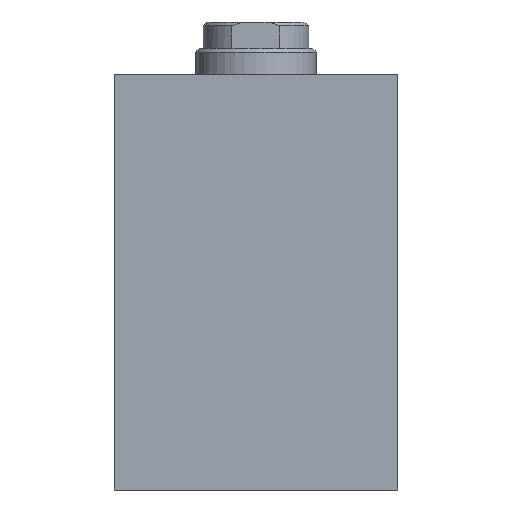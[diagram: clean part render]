
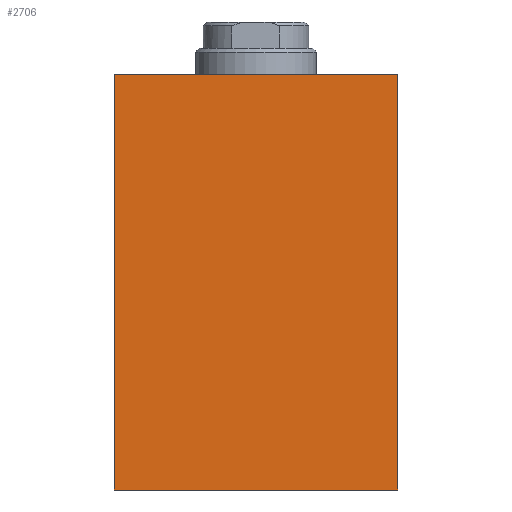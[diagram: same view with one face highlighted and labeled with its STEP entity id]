
A CAD part, front view. The second image highlights one B-rep face of the part: STEP entity #2706.
In plain terms, the highlighted planar face has unit normal (0, -1, 0).
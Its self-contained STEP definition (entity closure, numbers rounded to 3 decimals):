
#2706 = ADVANCED_FACE ( 'NONE', ( #16103 ), #11668, .F. ) ;
#3054 = LINE ( 'NONE', #8856, #19112 ) ;
#3880 = EDGE_CURVE ( 'NONE', #6202, #15353, #11498, .T. ) ;
#3902 = CARTESIAN_POINT ( 'NONE',  ( 75., 0., 0. ) ) ;
#6202 = VERTEX_POINT ( 'NONE', #7069 ) ;
#6531 = CARTESIAN_POINT ( 'NONE',  ( 75., 0., 110. ) ) ;
#6808 = DIRECTION ( 'NONE',  ( 0., 0., 1. ) ) ;
#7069 = CARTESIAN_POINT ( 'NONE',  ( 0., 0., 110. ) ) ;
#7563 = DIRECTION ( 'NONE',  ( 0., 0., -1. ) ) ;
#7590 = CARTESIAN_POINT ( 'NONE',  ( 0., 0., 110. ) ) ;
#7986 = EDGE_CURVE ( 'NONE', #12002, #9473, #18736, .T. ) ;
#8460 = ORIENTED_EDGE ( 'NONE', *, *, #7986, .F. ) ;
#8856 = CARTESIAN_POINT ( 'NONE',  ( 0., 0., 0. ) ) ;
#9473 = VERTEX_POINT ( 'NONE', #3902 ) ;
#9864 = EDGE_LOOP ( 'NONE', ( #11117, #8460, #11361, #21144 ) ) ;
#11117 = ORIENTED_EDGE ( 'NONE', *, *, #11413, .T. ) ;
#11361 = ORIENTED_EDGE ( 'NONE', *, *, #15791, .F. ) ;
#11413 = EDGE_CURVE ( 'NONE', #15353, #9473, #3054, .T. ) ;
#11498 = LINE ( 'NONE', #17044, #20938 ) ;
#11668 = PLANE ( 'NONE',  #17163 ) ;
#11725 = CARTESIAN_POINT ( 'NONE',  ( 0., 0., 110. ) ) ;
#12002 = VERTEX_POINT ( 'NONE', #6531 ) ;
#12847 = VECTOR ( 'NONE', #13087, 1000. ) ;
#13087 = DIRECTION ( 'NONE',  ( 1., 0., 0. ) ) ;
#14040 = DIRECTION ( 'NONE',  ( 0., 0., -1. ) ) ;
#15273 = DIRECTION ( 'NONE',  ( 1., 0., 0. ) ) ;
#15353 = VERTEX_POINT ( 'NONE', #17757 ) ;
#15441 = VECTOR ( 'NONE', #14040, 1000. ) ;
#15791 = EDGE_CURVE ( 'NONE', #6202, #12002, #17169, .T. ) ;
#16103 = FACE_OUTER_BOUND ( 'NONE', #9864, .T. ) ;
#17044 = CARTESIAN_POINT ( 'NONE',  ( 0., 0., 110. ) ) ;
#17163 = AXIS2_PLACEMENT_3D ( 'NONE', #11725, #19924, #6808 ) ;
#17169 = LINE ( 'NONE', #7590, #12847 ) ;
#17757 = CARTESIAN_POINT ( 'NONE',  ( 0., 0., 0. ) ) ;
#18736 = LINE ( 'NONE', #18797, #15441 ) ;
#18797 = CARTESIAN_POINT ( 'NONE',  ( 75., 0., 110. ) ) ;
#19112 = VECTOR ( 'NONE', #15273, 1000. ) ;
#19924 = DIRECTION ( 'NONE',  ( 0., 1., 0. ) ) ;
#20938 = VECTOR ( 'NONE', #7563, 1000. ) ;
#21144 = ORIENTED_EDGE ( 'NONE', *, *, #3880, .T. ) ;
